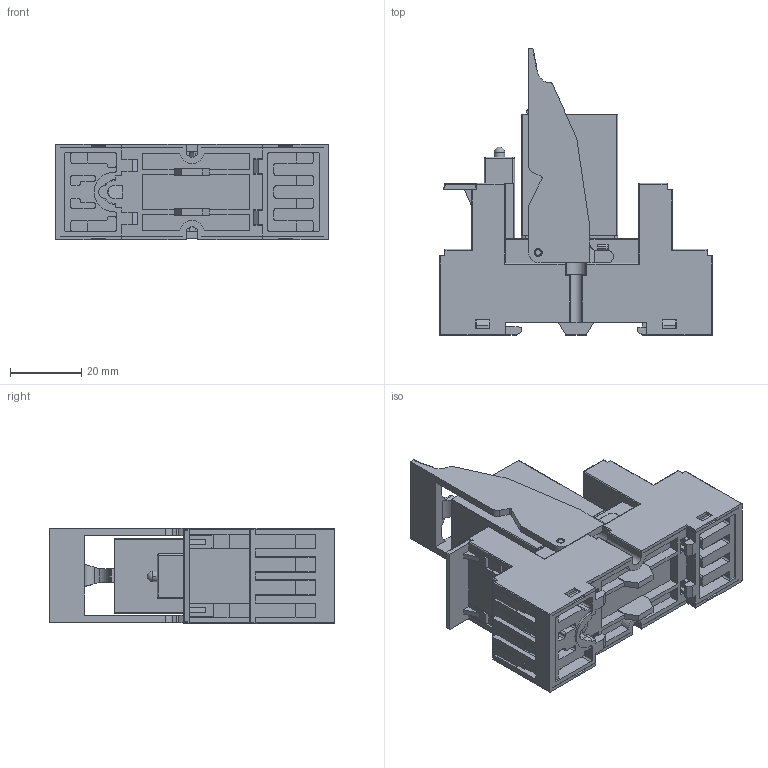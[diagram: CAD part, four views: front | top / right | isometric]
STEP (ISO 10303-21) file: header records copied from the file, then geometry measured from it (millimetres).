
FILE_DESCRIPTION (( 'STEP AP214' ), '1' );
FILE_NAME ('17. IR-4CO_IR-B4-SC-1_IR-RB-2_IR-MP-2_IR-FM-LD.STEP', '2023-06-08T06:01:32', ( '' ), ( '' ), 'SwSTEP 2.0', 'SolidWorks 2022', '' );
FILE_SCHEMA (( 'AUTOMOTIVE_DESIGN' ));
Length unit declared in the file: millimetre
Products named in the file (6): IR-FM-LD; 17. IR-4CO_IR-B4-SC-1_IR-RB-2_IR-MP-2_IR-FM-LD; IR-MP-2 (DKC); IR-RB-2 (DKC); IR-B4-SC-1; IR-4CO
Assembly tree (5 placements, depth 2):
  17. IR-4CO_IR-B4-SC-1_IR-RB-2_IR-MP-2_IR-FM-LD
    IR-B4-SC-1
    IR-4CO
    IR-RB-2 (DKC)
    IR-MP-2 (DKC)
    IR-FM-LD
Bounding box: 76.4 x 80.2 x 26.8 mm (x, y, z)
Volume: 74767.6 mm3; surface area: 31508.1 mm2
Topology: 5 solids, 5 shells, 2464 faces, 6820 edges, 4422 vertices
Faces by surface type: plane 1620, cylinder 461, bspline 313, cone 65, sphere 5
Entity records: 89823 total; most frequent: CARTESIAN_POINT 29127, ORIENTED_EDGE 13510, DIRECTION 11225, EDGE_CURVE 6755, VECTOR 4725, LINE 4725, VERTEX_POINT 4420, AXIS2_PLACEMENT_3D 3250
